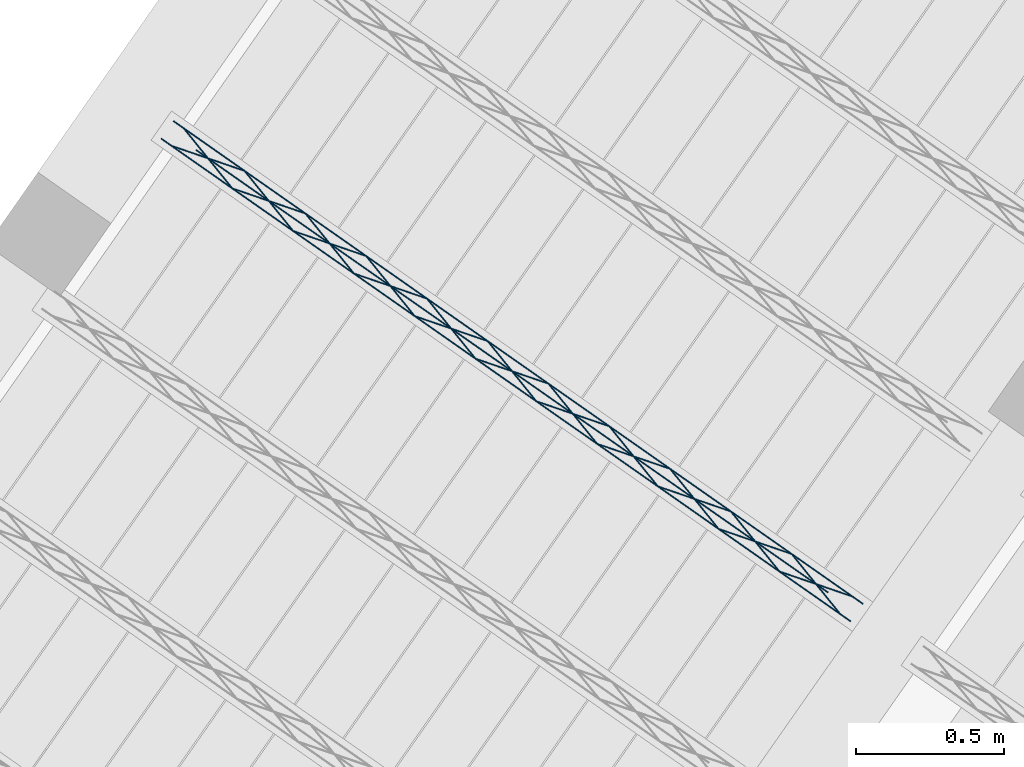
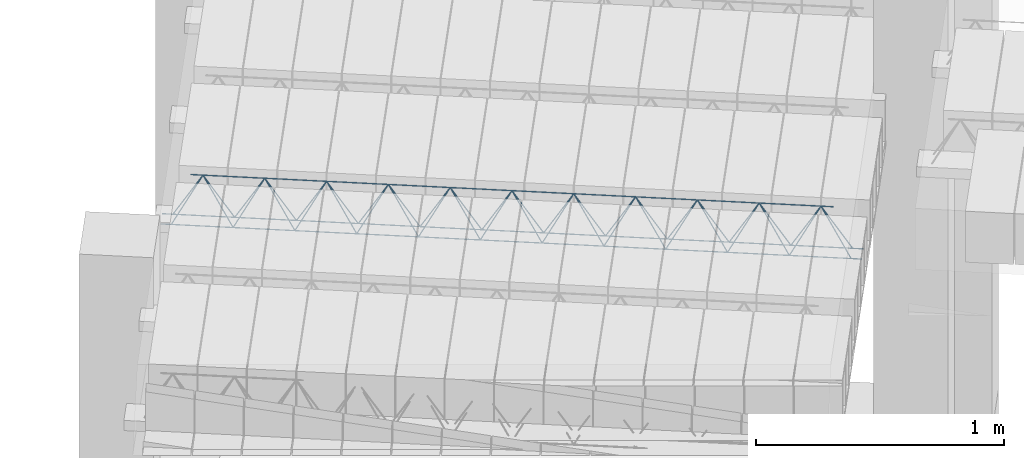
# One storey, part 34 of 80: 1 member.
"""IFC2X3 building model written with IfcOpenShell, lengths in metres."""

from ifc_helpers import new_model, entity, si_unit, converted_unit, derived_unit, direction, frame, origin, origin_2d_with_axis, place, context, subcontext, project, spatial, circle, extrude, type_object, element, save


model = new_model("IFC2X3")

# Units and contexts
model_context = context("Model", 3, precision=1e-05, world=origin(), true_north=direction((6.123031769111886e-17, 1.0)))
body_context = subcontext(model_context, "Body", "Model", "MODEL_VIEW")
ifc_project = project(units=[si_unit("LENGTHUNIT", "METRE"), si_unit("AREAUNIT", "SQUARE_METRE"), si_unit("VOLUMEUNIT", "CUBIC_METRE"), converted_unit("PLANEANGLEUNIT", "DEGREE", entity("IfcPlaneAngleMeasure", 0.017453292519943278), si_unit("PLANEANGLEUNIT", "RADIAN"), dimensions=[0, 0, 0, 0, 0, 0, 0]), si_unit("MASSUNIT", "GRAM", prefix="KILO"), derived_unit("MASSDENSITYUNIT", [(si_unit("MASSUNIT", "GRAM", prefix="KILO"), 1), (si_unit("LENGTHUNIT", "METRE"), -3)]), derived_unit("IONCONCENTRATIONUNIT", [(si_unit("MASSUNIT", "GRAM", prefix="KILO"), 1), (si_unit("LENGTHUNIT", "METRE"), -3)]), derived_unit("MOMENTOFINERTIAUNIT", [(si_unit("LENGTHUNIT", "METRE"), 4)]), si_unit("TIMEUNIT", "SECOND"), si_unit("FREQUENCYUNIT", "HERTZ"), si_unit("THERMODYNAMICTEMPERATUREUNIT", "DEGREE_CELSIUS"), derived_unit("THERMALTRANSMITTANCEUNIT", [(si_unit("MASSUNIT", "GRAM", prefix="KILO"), 1), (si_unit("THERMODYNAMICTEMPERATUREUNIT", "KELVIN"), -1), (si_unit("TIMEUNIT", "SECOND"), -3)]), derived_unit("THERMALCONDUCTANCEUNIT", [(si_unit("MASSUNIT", "GRAM", prefix="KILO"), 1), (si_unit("THERMODYNAMICTEMPERATUREUNIT", "KELVIN"), -1), (si_unit("TIMEUNIT", "SECOND"), -3), (si_unit("LENGTHUNIT", "METRE"), 1)]), derived_unit("VOLUMETRICFLOWRATEUNIT", [(si_unit("LENGTHUNIT", "METRE", prefix="DECI"), 3), (si_unit("TIMEUNIT", "SECOND"), -1)]), derived_unit("MASSFLOWRATEUNIT", [(si_unit("MASSUNIT", "GRAM", prefix="KILO"), 1), (si_unit("TIMEUNIT", "SECOND"), -1)]), derived_unit("ROTATIONALFREQUENCYUNIT", [(si_unit("TIMEUNIT", "SECOND"), -1)]), si_unit("ELECTRICCURRENTUNIT", "AMPERE"), si_unit("ELECTRICVOLTAGEUNIT", "VOLT"), si_unit("POWERUNIT", "WATT"), si_unit("FORCEUNIT", "NEWTON", prefix="KILO"), si_unit("ILLUMINANCEUNIT", "LUX"), si_unit("LUMINOUSFLUXUNIT", "LUMEN"), si_unit("LUMINOUSINTENSITYUNIT", "CANDELA"), si_unit("ENERGYUNIT", "JOULE"), derived_unit("USERDEFINED", [(si_unit("MASSUNIT", "GRAM", prefix="KILO"), -1), (si_unit("LENGTHUNIT", "METRE"), -2), (si_unit("TIMEUNIT", "SECOND"), 3), (si_unit("LUMINOUSFLUXUNIT", "LUMEN"), 1)]), derived_unit("USERDEFINED", [(si_unit("MASSUNIT", "GRAM", prefix="KILO"), 1), (si_unit("TIMEUNIT", "SECOND"), -3), (si_unit("LENGTHUNIT", "METRE"), 3), (si_unit("ELECTRICCURRENTUNIT", "AMPERE"), -2)]), derived_unit("SOUNDPOWERUNIT", [(si_unit("MASSUNIT", "GRAM", prefix="KILO"), 1), (si_unit("TIMEUNIT", "SECOND"), -3), (si_unit("LENGTHUNIT", "METRE"), 2)]), derived_unit("SOUNDPRESSUREUNIT", [(si_unit("MASSUNIT", "GRAM", prefix="KILO"), 1), (si_unit("LENGTHUNIT", "METRE"), -1), (si_unit("TIMEUNIT", "SECOND"), -2)]), derived_unit("LINEARVELOCITYUNIT", [(si_unit("LENGTHUNIT", "METRE"), 1), (si_unit("TIMEUNIT", "SECOND"), -1)]), si_unit("PRESSUREUNIT", "PASCAL"), derived_unit("USERDEFINED", [(si_unit("MASSUNIT", "GRAM", prefix="KILO"), 1), (si_unit("LENGTHUNIT", "METRE"), -2), (si_unit("TIMEUNIT", "SECOND"), -2)]), derived_unit("LINEARFORCEUNIT", [(si_unit("MASSUNIT", "GRAM", prefix="KILO"), 1), (si_unit("TIMEUNIT", "SECOND"), -2)]), derived_unit("PLANARFORCEUNIT", [(si_unit("MASSUNIT", "GRAM", prefix="KILO"), 1), (si_unit("LENGTHUNIT", "METRE"), -1), (si_unit("TIMEUNIT", "SECOND"), -2)]), derived_unit("SPECIFICHEATCAPACITYUNIT", [(si_unit("THERMODYNAMICTEMPERATUREUNIT", "KELVIN"), -1), (si_unit("LENGTHUNIT", "METRE"), 2), (si_unit("TIMEUNIT", "SECOND"), -2)]), derived_unit("HEATFLUXDENSITYUNIT", [(si_unit("MASSUNIT", "GRAM", prefix="KILO"), 1), (si_unit("TIMEUNIT", "SECOND"), -3)]), derived_unit("HEATINGVALUEUNIT", [(si_unit("LENGTHUNIT", "METRE"), 2), (si_unit("TIMEUNIT", "SECOND"), -2)]), derived_unit("VAPORPERMEABILITYUNIT", [(si_unit("LENGTHUNIT", "METRE"), -1), (si_unit("TIMEUNIT", "SECOND"), 1)]), derived_unit("DYNAMICVISCOSITYUNIT", [(si_unit("MASSUNIT", "GRAM", prefix="KILO"), 1), (si_unit("TIMEUNIT", "SECOND"), -1), (si_unit("LENGTHUNIT", "METRE"), -1)]), derived_unit("THERMALEXPANSIONCOEFFICIENTUNIT", [(si_unit("THERMODYNAMICTEMPERATUREUNIT", "KELVIN"), -1)]), derived_unit("MODULUSOFELASTICITYUNIT", [(si_unit("MASSUNIT", "GRAM", prefix="KILO"), 1), (si_unit("LENGTHUNIT", "METRE"), -1), (si_unit("TIMEUNIT", "SECOND"), -2)]), derived_unit("ISOTHERMALMOISTURECAPACITYUNIT", [(si_unit("MASSUNIT", "GRAM", prefix="KILO"), -1), (si_unit("LENGTHUNIT", "METRE"), 3)]), derived_unit("MOISTUREDIFFUSIVITYUNIT", [(si_unit("TIMEUNIT", "SECOND"), -1), (si_unit("LENGTHUNIT", "METRE"), 2)]), derived_unit("MASSPERLENGTHUNIT", [(si_unit("MASSUNIT", "GRAM", prefix="KILO"), 1), (si_unit("LENGTHUNIT", "METRE"), -1)]), derived_unit("THERMALRESISTANCEUNIT", [(si_unit("MASSUNIT", "GRAM", prefix="KILO"), -1), (si_unit("TIMEUNIT", "SECOND"), 3), (si_unit("THERMODYNAMICTEMPERATUREUNIT", "KELVIN"), 1)]), derived_unit("ACCELERATIONUNIT", [(si_unit("LENGTHUNIT", "METRE"), 1), (si_unit("TIMEUNIT", "SECOND"), -2)]), derived_unit("ANGULARVELOCITYUNIT", [(si_unit("TIMEUNIT", "SECOND"), -1), (si_unit("PLANEANGLEUNIT", "RADIAN"), 1)]), derived_unit("LINEARSTIFFNESSUNIT", [(si_unit("MASSUNIT", "GRAM", prefix="KILO"), 1), (si_unit("TIMEUNIT", "SECOND"), -2)]), derived_unit("WARPINGCONSTANTUNIT", [(si_unit("LENGTHUNIT", "METRE"), 6)]), derived_unit("LINEARMOMENTUNIT", [(si_unit("MASSUNIT", "GRAM", prefix="KILO"), 1), (si_unit("LENGTHUNIT", "METRE"), 1), (si_unit("TIMEUNIT", "SECOND"), -2)]), derived_unit("TORQUEUNIT", [(si_unit("MASSUNIT", "GRAM", prefix="KILO"), 1), (si_unit("LENGTHUNIT", "METRE"), 2), (si_unit("TIMEUNIT", "SECOND"), -2)])], contexts=[model_context])

# Site, building, storey
site_placement = place(None, origin())
site = spatial("IfcSite", under=ifc_project, at=site_placement, Name="Default", CompositionType="ELEMENT")
building_placement = place(site_placement, origin())
building = spatial("IfcBuilding", under=site, at=building_placement, CompositionType="ELEMENT")
storey_placement = place(building_placement, frame((0.0, 0.0, 95.94)))
storey = spatial("IfcBuildingStorey", under=building, at=storey_placement, Name="PB", CompositionType="ELEMENT", Elevation=95.94)

# Member
member_type = type_object("IfcMemberType", Name="Celosía (Vigueta 11 - Paño 2)", PredefinedType="NOTDEFINED")
member_placement = place(storey_placement, origin())
element("IfcMember", 1, at=member_placement, inside=storey, type_object=member_type, Name="Celosía (Vigueta 11 - Paño 2)", context=body_context, shape_type="SweptSolid", body=[
    extrude(circle(Radius=0.0025, at=origin_2d_with_axis()), frame((5.157536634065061, 6.782673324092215, 2.8449999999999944), z_axis=(-0.8191520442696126, 0.5735764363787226, 0.0), x_axis=(-0.5735764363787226, -0.8191520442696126, 0.0)), (0.0, 0.0, 1.0), 2.8364267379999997),
    extrude(circle(Radius=0.0025, at=origin_2d_with_axis()), frame((2.9515553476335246, 8.371265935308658, 3.069999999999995), z_axis=(0.8191520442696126, -0.5735764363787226, 0.0), x_axis=(-0.5735764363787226, -0.8191520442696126, 0.0)), (0.0, 0.0, 1.0), 2.599999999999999),
    extrude(circle(Radius=0.0025, at=origin_2d_with_axis()), frame((5.122138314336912, 6.807459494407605, 2.8449999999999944), z_axis=(-0.3145304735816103, 0.389334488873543, 0.8657304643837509), x_axis=(-0.7778747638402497, -0.6284193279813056, 0.0)), (0.0, 0.0, 1.0), 0.2598961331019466),
    extrude(circle(Radius=0.0025, at=origin_2d_with_axis()), frame((4.917350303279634, 6.950853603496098, 2.8449999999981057), z_axis=(0.47343050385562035, -0.1624017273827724, 0.8657304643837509), x_axis=(-0.3244721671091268, -0.9458952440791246, 0.0)), (0.0, 0.0, 1.0), 0.25989613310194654),
    extrude(circle(Radius=0.0025, at=origin_2d_with_axis()), frame((4.917350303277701, 6.95085360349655, 2.8449999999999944), z_axis=(-0.3145304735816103, 0.389334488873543, 0.8657304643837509), x_axis=(-0.7778747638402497, -0.6284193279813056, 0.0)), (0.0, 0.0, 1.0), 0.2598961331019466),
    extrude(circle(Radius=0.0025, at=origin_2d_with_axis()), frame((4.71256229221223, 7.0942477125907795, 2.8449999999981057), z_axis=(0.47343050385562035, -0.1624017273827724, 0.8657304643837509), x_axis=(-0.3244721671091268, -0.9458952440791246, 0.0)), (0.0, 0.0, 1.0), 0.25989613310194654),
    extrude(circle(Radius=0.0025, at=origin_2d_with_axis()), frame((4.712562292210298, 7.09424771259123, 2.8449999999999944), z_axis=(-0.3145304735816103, 0.389334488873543, 0.8657304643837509), x_axis=(-0.7778747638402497, -0.6284193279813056, 0.0)), (0.0, 0.0, 1.0), 0.2598961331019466),
    extrude(circle(Radius=0.0025, at=origin_2d_with_axis()), frame((4.507774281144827, 7.23764182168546, 2.8449999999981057), z_axis=(0.47343050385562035, -0.1624017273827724, 0.8657304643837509), x_axis=(-0.3244721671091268, -0.9458952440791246, 0.0)), (0.0, 0.0, 1.0), 0.25989613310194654),
    extrude(circle(Radius=0.0025, at=origin_2d_with_axis()), frame((4.507774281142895, 7.237641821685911, 2.8449999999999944), z_axis=(-0.3145304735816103, 0.389334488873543, 0.8657304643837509), x_axis=(-0.7778747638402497, -0.6284193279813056, 0.0)), (0.0, 0.0, 1.0), 0.2598961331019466),
    extrude(circle(Radius=0.0025, at=origin_2d_with_axis()), frame((4.302986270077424, 7.38103593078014, 2.8449999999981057), z_axis=(0.47343050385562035, -0.1624017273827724, 0.8657304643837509), x_axis=(-0.3244721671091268, -0.9458952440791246, 0.0)), (0.0, 0.0, 1.0), 0.25989613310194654),
    extrude(circle(Radius=0.0025, at=origin_2d_with_axis()), frame((4.302986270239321, 7.381035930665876, 2.8449999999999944), z_axis=(-0.3145304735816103, 0.389334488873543, 0.8657304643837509), x_axis=(-0.7778747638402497, -0.6284193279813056, 0.0)), (0.0, 0.0, 1.0), 0.2598961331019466),
    extrude(circle(Radius=0.0025, at=origin_2d_with_axis()), frame((4.098198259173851, 7.524430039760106, 2.8449999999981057), z_axis=(0.47343050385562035, -0.1624017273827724, 0.8657304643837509), x_axis=(-0.3244721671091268, -0.9458952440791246, 0.0)), (0.0, 0.0, 1.0), 0.25989613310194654),
    extrude(circle(Radius=0.0025, at=origin_2d_with_axis()), frame((4.098198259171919, 7.524430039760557, 2.8449999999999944), z_axis=(-0.3145304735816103, 0.389334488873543, 0.8657304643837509), x_axis=(-0.7778747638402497, -0.6284193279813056, 0.0)), (0.0, 0.0, 1.0), 0.2598961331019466),
    extrude(circle(Radius=0.0025, at=origin_2d_with_axis()), frame((3.893410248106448, 7.667824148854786, 2.8449999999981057), z_axis=(0.47343050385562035, -0.1624017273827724, 0.8657304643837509), x_axis=(-0.3244721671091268, -0.9458952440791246, 0.0)), (0.0, 0.0, 1.0), 0.25989613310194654),
    extrude(circle(Radius=0.0025, at=origin_2d_with_axis()), frame((3.893410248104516, 7.667824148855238, 2.8449999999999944), z_axis=(-0.3145304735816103, 0.389334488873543, 0.8657304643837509), x_axis=(-0.7778747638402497, -0.6284193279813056, 0.0)), (0.0, 0.0, 1.0), 0.2598961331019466),
    extrude(circle(Radius=0.0025, at=origin_2d_with_axis()), frame((3.688622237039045, 7.811218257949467, 2.8449999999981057), z_axis=(0.47343050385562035, -0.1624017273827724, 0.8657304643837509), x_axis=(-0.3244721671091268, -0.9458952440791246, 0.0)), (0.0, 0.0, 1.0), 0.25989613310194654),
    extrude(circle(Radius=0.0025, at=origin_2d_with_axis()), frame((3.6886222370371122, 7.811218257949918, 2.8449999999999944), z_axis=(-0.3145304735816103, 0.389334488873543, 0.8657304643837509), x_axis=(-0.7778747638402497, -0.6284193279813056, 0.0)), (0.0, 0.0, 1.0), 0.2598961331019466),
    extrude(circle(Radius=0.0025, at=origin_2d_with_axis()), frame((3.4838342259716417, 7.954612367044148, 2.8449999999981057), z_axis=(0.47343050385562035, -0.1624017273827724, 0.8657304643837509), x_axis=(-0.3244721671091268, -0.9458952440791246, 0.0)), (0.0, 0.0, 1.0), 0.25989613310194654),
    extrude(circle(Radius=0.0025, at=origin_2d_with_axis()), frame((3.483834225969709, 7.954612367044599, 2.8449999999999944), z_axis=(-0.3145304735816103, 0.389334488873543, 0.8657304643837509), x_axis=(-0.7778747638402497, -0.6284193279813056, 0.0)), (0.0, 0.0, 1.0), 0.2598961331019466),
    extrude(circle(Radius=0.0025, at=origin_2d_with_axis()), frame((3.279046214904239, 8.098006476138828, 2.8449999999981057), z_axis=(0.47343050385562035, -0.1624017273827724, 0.8657304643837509), x_axis=(-0.3244721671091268, -0.9458952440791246, 0.0)), (0.0, 0.0, 1.0), 0.25989613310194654),
    extrude(circle(Radius=0.0025, at=origin_2d_with_axis()), frame((3.2790462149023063, 8.098006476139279, 2.8449999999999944), z_axis=(-0.3145304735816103, 0.389334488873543, 0.8657304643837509), x_axis=(-0.7778747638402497, -0.6284193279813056, 0.0)), (0.0, 0.0, 1.0), 0.2598961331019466),
    extrude(circle(Radius=0.0025, at=origin_2d_with_axis()), frame((3.074258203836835, 8.24140058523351, 2.8449999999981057), z_axis=(0.47343050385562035, -0.1624017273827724, 0.8657304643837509), x_axis=(-0.3244721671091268, -0.9458952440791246, 0.0)), (0.0, 0.0, 1.0), 0.25989613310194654),
    extrude(circle(Radius=0.0025, at=origin_2d_with_axis()), frame((3.074258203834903, 8.24140058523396, 2.8449999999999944), z_axis=(-0.3145304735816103, 0.389334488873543, 0.8657304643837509), x_axis=(-0.7778747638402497, -0.6284193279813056, 0.0)), (0.0, 0.0, 1.0), 0.2598961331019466),
    extrude(circle(Radius=0.0025, at=origin_2d_with_axis()), frame((2.869470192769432, 8.384794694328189, 2.8449999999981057), z_axis=(0.47343050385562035, -0.1624017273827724, 0.8657304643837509), x_axis=(-0.3244721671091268, -0.9458952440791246, 0.0)), (0.0, 0.0, 1.0), 0.25989613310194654),
    extrude(circle(Radius=0.0025, at=origin_2d_with_axis()), frame((5.198834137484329, 6.841652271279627, 2.8449999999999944), z_axis=(-0.8191520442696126, 0.5735764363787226, 0.0), x_axis=(-0.5735764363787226, -0.8191520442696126, 0.0)), (0.0, 0.0, 1.0), 2.8364267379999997),
    extrude(circle(Radius=0.0025, at=origin_2d_with_axis()), frame((5.16343581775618, 6.866438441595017, 2.8449999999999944), z_axis=(-0.47343050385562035, 0.1624017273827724, 0.8657304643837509), x_axis=(-0.3244721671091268, -0.9458952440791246, 0.0)), (0.0, 0.0, 1.0), 0.25989613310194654),
    extrude(circle(Radius=0.0025, at=origin_2d_with_axis()), frame((4.958647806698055, 7.009832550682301, 2.8449999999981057), z_axis=(0.3145304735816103, -0.389334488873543, 0.8657304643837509), x_axis=(-0.7778747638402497, -0.6284193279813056, 0.0)), (0.0, 0.0, 1.0), 0.2598961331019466),
    extrude(circle(Radius=0.0025, at=origin_2d_with_axis()), frame((4.958647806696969, 7.009832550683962, 2.8449999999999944), z_axis=(-0.47343050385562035, 0.1624017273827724, 0.8657304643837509), x_axis=(-0.3244721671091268, -0.9458952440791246, 0.0)), (0.0, 0.0, 1.0), 0.25989613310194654),
    extrude(circle(Radius=0.0025, at=origin_2d_with_axis()), frame((4.7538597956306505, 7.153226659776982, 2.8449999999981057), z_axis=(0.3145304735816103, -0.389334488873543, 0.8657304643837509), x_axis=(-0.7778747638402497, -0.6284193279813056, 0.0)), (0.0, 0.0, 1.0), 0.2598961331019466),
    extrude(circle(Radius=0.0025, at=origin_2d_with_axis()), frame((4.753859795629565, 7.153226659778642, 2.8449999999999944), z_axis=(-0.47343050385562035, 0.1624017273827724, 0.8657304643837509), x_axis=(-0.3244721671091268, -0.9458952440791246, 0.0)), (0.0, 0.0, 1.0), 0.25989613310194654),
    extrude(circle(Radius=0.0025, at=origin_2d_with_axis()), frame((4.549071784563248, 7.296620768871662, 2.8449999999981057), z_axis=(0.3145304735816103, -0.389334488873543, 0.8657304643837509), x_axis=(-0.7778747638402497, -0.6284193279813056, 0.0)), (0.0, 0.0, 1.0), 0.2598961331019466),
    extrude(circle(Radius=0.0025, at=origin_2d_with_axis()), frame((4.549071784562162, 7.296620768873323, 2.8449999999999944), z_axis=(-0.47343050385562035, 0.1624017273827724, 0.8657304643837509), x_axis=(-0.3244721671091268, -0.9458952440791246, 0.0)), (0.0, 0.0, 1.0), 0.25989613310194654),
    extrude(circle(Radius=0.0025, at=origin_2d_with_axis()), frame((4.344283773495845, 7.440014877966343, 2.8449999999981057), z_axis=(0.3145304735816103, -0.389334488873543, 0.8657304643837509), x_axis=(-0.7778747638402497, -0.6284193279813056, 0.0)), (0.0, 0.0, 1.0), 0.2598961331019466),
    extrude(circle(Radius=0.0025, at=origin_2d_with_axis()), frame((4.3442837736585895, 7.4400148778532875, 2.8449999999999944), z_axis=(-0.47343050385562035, 0.1624017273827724, 0.8657304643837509), x_axis=(-0.3244721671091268, -0.9458952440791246, 0.0)), (0.0, 0.0, 1.0), 0.25989613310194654),
    extrude(circle(Radius=0.0025, at=origin_2d_with_axis()), frame((4.139495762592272, 7.583408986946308, 2.8449999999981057), z_axis=(0.3145304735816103, -0.389334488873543, 0.8657304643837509), x_axis=(-0.7778747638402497, -0.6284193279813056, 0.0)), (0.0, 0.0, 1.0), 0.2598961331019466),
    extrude(circle(Radius=0.0025, at=origin_2d_with_axis()), frame((4.139495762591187, 7.583408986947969, 2.8449999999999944), z_axis=(-0.47343050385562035, 0.1624017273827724, 0.8657304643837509), x_axis=(-0.3244721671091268, -0.9458952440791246, 0.0)), (0.0, 0.0, 1.0), 0.25989613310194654),
    extrude(circle(Radius=0.0025, at=origin_2d_with_axis()), frame((3.934707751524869, 7.726803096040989, 2.8449999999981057), z_axis=(0.3145304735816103, -0.389334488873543, 0.8657304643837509), x_axis=(-0.7778747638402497, -0.6284193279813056, 0.0)), (0.0, 0.0, 1.0), 0.2598961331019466),
    extrude(circle(Radius=0.0025, at=origin_2d_with_axis()), frame((3.9347077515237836, 7.72680309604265, 2.8449999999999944), z_axis=(-0.47343050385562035, 0.1624017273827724, 0.8657304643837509), x_axis=(-0.3244721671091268, -0.9458952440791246, 0.0)), (0.0, 0.0, 1.0), 0.25989613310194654),
    extrude(circle(Radius=0.0025, at=origin_2d_with_axis()), frame((3.7299197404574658, 7.87019720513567, 2.8449999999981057), z_axis=(0.3145304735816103, -0.389334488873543, 0.8657304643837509), x_axis=(-0.7778747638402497, -0.6284193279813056, 0.0)), (0.0, 0.0, 1.0), 0.2598961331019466),
    extrude(circle(Radius=0.0025, at=origin_2d_with_axis()), frame((3.72991974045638, 7.87019720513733, 2.8449999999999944), z_axis=(-0.47343050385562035, 0.1624017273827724, 0.8657304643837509), x_axis=(-0.3244721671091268, -0.9458952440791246, 0.0)), (0.0, 0.0, 1.0), 0.25989613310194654),
    extrude(circle(Radius=0.0025, at=origin_2d_with_axis()), frame((3.5251317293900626, 8.01359131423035, 2.8449999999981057), z_axis=(0.3145304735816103, -0.389334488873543, 0.8657304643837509), x_axis=(-0.7778747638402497, -0.6284193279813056, 0.0)), (0.0, 0.0, 1.0), 0.2598961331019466),
    extrude(circle(Radius=0.0025, at=origin_2d_with_axis()), frame((3.525131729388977, 8.013591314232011, 2.8449999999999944), z_axis=(-0.47343050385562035, 0.1624017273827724, 0.8657304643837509), x_axis=(-0.3244721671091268, -0.9458952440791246, 0.0)), (0.0, 0.0, 1.0), 0.25989613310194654),
    extrude(circle(Radius=0.0025, at=origin_2d_with_axis()), frame((3.32034371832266, 8.15698542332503, 2.8449999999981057), z_axis=(0.3145304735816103, -0.389334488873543, 0.8657304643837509), x_axis=(-0.7778747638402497, -0.6284193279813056, 0.0)), (0.0, 0.0, 1.0), 0.2598961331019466),
    extrude(circle(Radius=0.0025, at=origin_2d_with_axis()), frame((3.3203437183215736, 8.156985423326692, 2.8449999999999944), z_axis=(-0.47343050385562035, 0.1624017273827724, 0.8657304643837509), x_axis=(-0.3244721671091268, -0.9458952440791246, 0.0)), (0.0, 0.0, 1.0), 0.25989613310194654),
    extrude(circle(Radius=0.0025, at=origin_2d_with_axis()), frame((3.1155557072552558, 8.300379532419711, 2.8449999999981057), z_axis=(0.3145304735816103, -0.389334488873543, 0.8657304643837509), x_axis=(-0.7778747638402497, -0.6284193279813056, 0.0)), (0.0, 0.0, 1.0), 0.2598961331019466),
    extrude(circle(Radius=0.0025, at=origin_2d_with_axis()), frame((3.115555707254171, 8.300379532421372, 2.8449999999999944), z_axis=(-0.47343050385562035, 0.1624017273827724, 0.8657304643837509), x_axis=(-0.3244721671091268, -0.9458952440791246, 0.0)), (0.0, 0.0, 1.0), 0.25989613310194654),
    extrude(circle(Radius=0.0025, at=origin_2d_with_axis()), frame((2.910767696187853, 8.443773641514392, 2.8449999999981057), z_axis=(0.3145304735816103, -0.389334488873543, 0.8657304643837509), x_axis=(-0.7778747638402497, -0.6284193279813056, 0.0)), (0.0, 0.0, 1.0), 0.2598961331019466),
])

save(model, "model.ifc")
